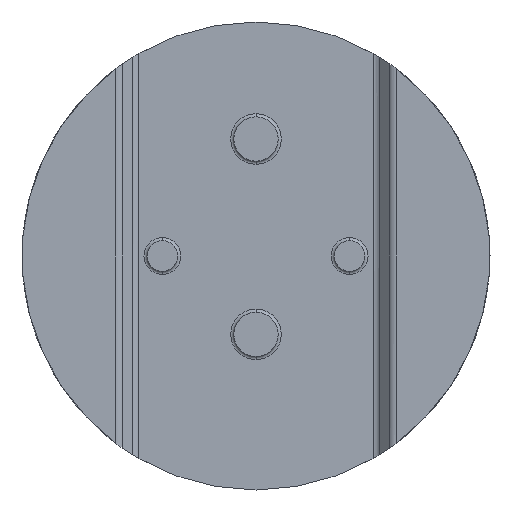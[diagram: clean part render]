
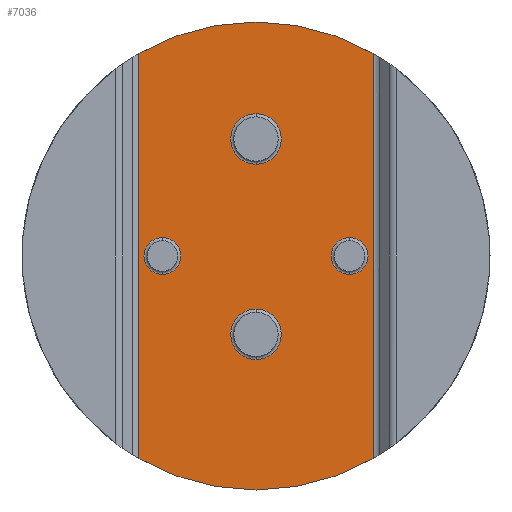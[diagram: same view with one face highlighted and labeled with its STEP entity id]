
A CAD part, front view. The second image highlights one B-rep face of the part: STEP entity #7036.
In plain terms, the highlighted planar face has unit normal (0, -1, 0).
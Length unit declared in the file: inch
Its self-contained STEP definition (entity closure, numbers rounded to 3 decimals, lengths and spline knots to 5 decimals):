
#22 = PLANE ( 'NONE',  #5984 ) ;
#72 = CARTESIAN_POINT ( 'NONE',  ( -0.37507, -0.201, 0.64948 ) ) ;
#175 = VERTEX_POINT ( 'NONE', #9299 ) ;
#410 = DIRECTION ( 'NONE',  ( 0., 1., 0. ) ) ;
#437 = AXIS2_PLACEMENT_3D ( 'NONE', #5603, #8618, #1829 ) ;
#475 = CARTESIAN_POINT ( 'NONE',  ( -0.37507, -0.201, -0.64948 ) ) ;
#487 = DIRECTION ( 'NONE',  ( 0., 1., 0. ) ) ;
#541 = DIRECTION ( 'NONE',  ( 0., 0., 1. ) ) ;
#593 = CARTESIAN_POINT ( 'NONE',  ( 0., -0.201, 0. ) ) ;
#620 = CARTESIAN_POINT ( 'NONE',  ( -0.3, -0.201, 0. ) ) ;
#628 = EDGE_CURVE ( 'NONE', #821, #9442, #5841, .T. ) ;
#671 = CARTESIAN_POINT ( 'NONE',  ( -0.3875, -0.201, -0.75 ) ) ;
#726 = ORIENTED_EDGE ( 'NONE', *, *, #628, .F. ) ;
#783 = VERTEX_POINT ( 'NONE', #6572 ) ;
#821 = VERTEX_POINT ( 'NONE', #8007 ) ;
#915 = AXIS2_PLACEMENT_3D ( 'NONE', #4039, #3191, #992 ) ;
#945 = EDGE_CURVE ( 'NONE', #175, #1289, #4968, .T. ) ;
#992 = DIRECTION ( 'NONE',  ( 0., 0., 1. ) ) ;
#1015 = CARTESIAN_POINT ( 'NONE',  ( 0., -0.201, 0. ) ) ;
#1033 = VERTEX_POINT ( 'NONE', #6132 ) ;
#1289 = VERTEX_POINT ( 'NONE', #5786 ) ;
#1470 = FACE_OUTER_BOUND ( 'NONE', #4001, .T. ) ;
#1485 = AXIS2_PLACEMENT_3D ( 'NONE', #593, #2829, #541 ) ;
#1539 = VECTOR ( 'NONE', #5157, 39.37008 ) ;
#1668 = CARTESIAN_POINT ( 'NONE',  ( 0., -0.201, -0.17 ) ) ;
#1829 = DIRECTION ( 'NONE',  ( 0., 0., 1. ) ) ;
#1939 = AXIS2_PLACEMENT_3D ( 'NONE', #3288, #2341, #6997 ) ;
#2039 = ORIENTED_EDGE ( 'NONE', *, *, #9761, .T. ) ;
#2075 = VERTEX_POINT ( 'NONE', #72 ) ;
#2080 = VERTEX_POINT ( 'NONE', #1668 ) ;
#2220 = ORIENTED_EDGE ( 'NONE', *, *, #9120, .T. ) ;
#2227 = EDGE_LOOP ( 'NONE', ( #3163, #7549 ) ) ;
#2271 = EDGE_CURVE ( 'NONE', #8643, #6760, #3589, .T. ) ;
#2311 = FACE_BOUND ( 'NONE', #2888, .T. ) ;
#2341 = DIRECTION ( 'NONE',  ( 0., 1., 0. ) ) ;
#2421 = DIRECTION ( 'NONE',  ( 0., 0., 1. ) ) ;
#2770 = CARTESIAN_POINT ( 'NONE',  ( 0.37507, -0.201, 0.64214 ) ) ;
#2829 = DIRECTION ( 'NONE',  ( 0., 1., 0. ) ) ;
#2888 = EDGE_LOOP ( 'NONE', ( #8393, #4349 ) ) ;
#2910 = DIRECTION ( 'NONE',  ( 0., 1., 0. ) ) ;
#2995 = AXIS2_PLACEMENT_3D ( 'NONE', #5255, #3579, #3787 ) ;
#3097 = DIRECTION ( 'NONE',  ( 0., 0., 1. ) ) ;
#3105 = EDGE_CURVE ( 'NONE', #6760, #8643, #6071, .T. ) ;
#3163 = ORIENTED_EDGE ( 'NONE', *, *, #945, .T. ) ;
#3191 = DIRECTION ( 'NONE',  ( 0., 1., 0. ) ) ;
#3288 = CARTESIAN_POINT ( 'NONE',  ( 0., -0.201, 0.375 ) ) ;
#3342 = EDGE_CURVE ( 'NONE', #4640, #6962, #7331, .T. ) ;
#3415 = CARTESIAN_POINT ( 'NONE',  ( 0.37507, -0.201, 0.64948 ) ) ;
#3447 = EDGE_CURVE ( 'NONE', #9442, #7945, #9525, .T. ) ;
#3566 = DIRECTION ( 'NONE',  ( 0., 0., 1. ) ) ;
#3579 = DIRECTION ( 'NONE',  ( 0., 1., 0. ) ) ;
#3589 = CIRCLE ( 'NONE', #7538, 0.081 ) ;
#3700 = DIRECTION ( 'NONE',  ( 0., 0., 1. ) ) ;
#3787 = DIRECTION ( 'NONE',  ( 0., 0., 1. ) ) ;
#3801 = CIRCLE ( 'NONE', #7580, 0.75 ) ;
#3802 = CARTESIAN_POINT ( 'NONE',  ( 0., -0.201, 0.294 ) ) ;
#3818 = CARTESIAN_POINT ( 'NONE',  ( 0., -0.201, 0.75 ) ) ;
#3988 = EDGE_CURVE ( 'NONE', #783, #2080, #4034, .T. ) ;
#4001 = EDGE_LOOP ( 'NONE', ( #726, #2220, #4177, #4819, #5773, #4359 ) ) ;
#4034 = CIRCLE ( 'NONE', #6554, 0.081 ) ;
#4039 = CARTESIAN_POINT ( 'NONE',  ( 0., -0.201, -0.251 ) ) ;
#4082 = DIRECTION ( 'NONE',  ( 0., 0., 1. ) ) ;
#4149 = DIRECTION ( 'NONE',  ( 0., 0., 1. ) ) ;
#4177 = ORIENTED_EDGE ( 'NONE', *, *, #3342, .F. ) ;
#4272 = DIRECTION ( 'NONE',  ( 0., 1., 0. ) ) ;
#4338 = CARTESIAN_POINT ( 'NONE',  ( 0., -0.201, 0. ) ) ;
#4349 = ORIENTED_EDGE ( 'NONE', *, *, #3988, .T. ) ;
#4359 = ORIENTED_EDGE ( 'NONE', *, *, #3447, .F. ) ;
#4487 = DIRECTION ( 'NONE',  ( 0., 1., 0. ) ) ;
#4640 = VERTEX_POINT ( 'NONE', #3818 ) ;
#4663 = DIRECTION ( 'NONE',  ( 0., 1., 0. ) ) ;
#4819 = ORIENTED_EDGE ( 'NONE', *, *, #8949, .F. ) ;
#4831 = CARTESIAN_POINT ( 'NONE',  ( 0.3, -0.201, -0.059 ) ) ;
#4961 = EDGE_LOOP ( 'NONE', ( #6526, #9222 ) ) ;
#4968 = CIRCLE ( 'NONE', #8752, 0.059 ) ;
#5157 = DIRECTION ( 'NONE',  ( 0., 0., -1. ) ) ;
#5192 = DIRECTION ( 'NONE',  ( 0., 1., 0. ) ) ;
#5255 = CARTESIAN_POINT ( 'NONE',  ( 0.3, -0.201, 0. ) ) ;
#5338 = FACE_BOUND ( 'NONE', #4961, .T. ) ;
#5603 = CARTESIAN_POINT ( 'NONE',  ( -0.3, -0.201, 0. ) ) ;
#5677 = AXIS2_PLACEMENT_3D ( 'NONE', #6101, #4663, #2421 ) ;
#5773 = ORIENTED_EDGE ( 'NONE', *, *, #6609, .T. ) ;
#5786 = CARTESIAN_POINT ( 'NONE',  ( -0.3, -0.201, -0.059 ) ) ;
#5804 = DIRECTION ( 'NONE',  ( 0., 0., 1. ) ) ;
#5841 = CIRCLE ( 'NONE', #7253, 0.75 ) ;
#5938 = FACE_BOUND ( 'NONE', #6197, .T. ) ;
#5968 = DIRECTION ( 'NONE',  ( 0., 1., 0. ) ) ;
#5984 = AXIS2_PLACEMENT_3D ( 'NONE', #671, #2910, #9045 ) ;
#6071 = CIRCLE ( 'NONE', #1939, 0.081 ) ;
#6101 = CARTESIAN_POINT ( 'NONE',  ( 0.3, -0.201, 0. ) ) ;
#6132 = CARTESIAN_POINT ( 'NONE',  ( 0.3, -0.201, 0.059 ) ) ;
#6197 = EDGE_LOOP ( 'NONE', ( #7102, #2039 ) ) ;
#6526 = ORIENTED_EDGE ( 'NONE', *, *, #3105, .T. ) ;
#6554 = AXIS2_PLACEMENT_3D ( 'NONE', #9711, #5968, #3097 ) ;
#6572 = CARTESIAN_POINT ( 'NONE',  ( 0., -0.201, -0.332 ) ) ;
#6609 = EDGE_CURVE ( 'NONE', #2075, #7945, #8383, .T. ) ;
#6760 = VERTEX_POINT ( 'NONE', #9201 ) ;
#6801 = CIRCLE ( 'NONE', #5677, 0.059 ) ;
#6949 = CIRCLE ( 'NONE', #437, 0.059 ) ;
#6962 = VERTEX_POINT ( 'NONE', #3415 ) ;
#6997 = DIRECTION ( 'NONE',  ( 0., 0., 1. ) ) ;
#7036 = ADVANCED_FACE ( 'NONE', ( #5938, #9730, #2311, #5338, #1470 ), #22, .F. ) ;
#7102 = ORIENTED_EDGE ( 'NONE', *, *, #9723, .T. ) ;
#7252 = CIRCLE ( 'NONE', #2995, 0.059 ) ;
#7253 = AXIS2_PLACEMENT_3D ( 'NONE', #1015, #410, #4149 ) ;
#7255 = VERTEX_POINT ( 'NONE', #4831 ) ;
#7283 = DIRECTION ( 'NONE',  ( 0., 0., 1. ) ) ;
#7331 = CIRCLE ( 'NONE', #1485, 0.75 ) ;
#7538 = AXIS2_PLACEMENT_3D ( 'NONE', #8808, #4272, #7283 ) ;
#7549 = ORIENTED_EDGE ( 'NONE', *, *, #8973, .T. ) ;
#7580 = AXIS2_PLACEMENT_3D ( 'NONE', #9449, #487, #4082 ) ;
#7632 = CARTESIAN_POINT ( 'NONE',  ( -0.37507, -0.201, -0.64214 ) ) ;
#7945 = VERTEX_POINT ( 'NONE', #475 ) ;
#8007 = CARTESIAN_POINT ( 'NONE',  ( 0.37507, -0.201, -0.64948 ) ) ;
#8383 = LINE ( 'NONE', #7632, #1539 ) ;
#8393 = ORIENTED_EDGE ( 'NONE', *, *, #8761, .T. ) ;
#8618 = DIRECTION ( 'NONE',  ( 0., 1., 0. ) ) ;
#8643 = VERTEX_POINT ( 'NONE', #3802 ) ;
#8661 = CIRCLE ( 'NONE', #915, 0.081 ) ;
#8752 = AXIS2_PLACEMENT_3D ( 'NONE', #620, #5192, #3566 ) ;
#8761 = EDGE_CURVE ( 'NONE', #2080, #783, #8661, .T. ) ;
#8808 = CARTESIAN_POINT ( 'NONE',  ( 0., -0.201, 0.375 ) ) ;
#8813 = LINE ( 'NONE', #2770, #9305 ) ;
#8949 = EDGE_CURVE ( 'NONE', #2075, #4640, #3801, .T. ) ;
#8973 = EDGE_CURVE ( 'NONE', #1289, #175, #6949, .T. ) ;
#9045 = DIRECTION ( 'NONE',  ( 0., 0., 1. ) ) ;
#9120 = EDGE_CURVE ( 'NONE', #821, #6962, #8813, .T. ) ;
#9201 = CARTESIAN_POINT ( 'NONE',  ( 0., -0.201, 0.456 ) ) ;
#9222 = ORIENTED_EDGE ( 'NONE', *, *, #2271, .T. ) ;
#9299 = CARTESIAN_POINT ( 'NONE',  ( -0.3, -0.201, 0.059 ) ) ;
#9305 = VECTOR ( 'NONE', #5804, 39.37008 ) ;
#9307 = CARTESIAN_POINT ( 'NONE',  ( 0., -0.201, -0.75 ) ) ;
#9442 = VERTEX_POINT ( 'NONE', #9307 ) ;
#9449 = CARTESIAN_POINT ( 'NONE',  ( 0., -0.201, 0. ) ) ;
#9525 = CIRCLE ( 'NONE', #9696, 0.75 ) ;
#9696 = AXIS2_PLACEMENT_3D ( 'NONE', #4338, #4487, #3700 ) ;
#9711 = CARTESIAN_POINT ( 'NONE',  ( 0., -0.201, -0.251 ) ) ;
#9723 = EDGE_CURVE ( 'NONE', #1033, #7255, #7252, .T. ) ;
#9730 = FACE_BOUND ( 'NONE', #2227, .T. ) ;
#9761 = EDGE_CURVE ( 'NONE', #7255, #1033, #6801, .T. ) ;
